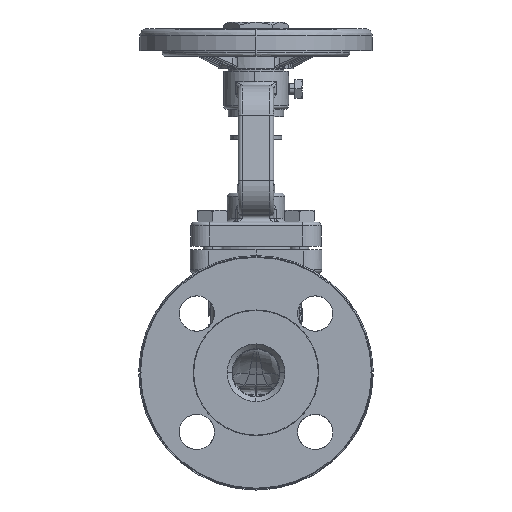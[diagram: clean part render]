
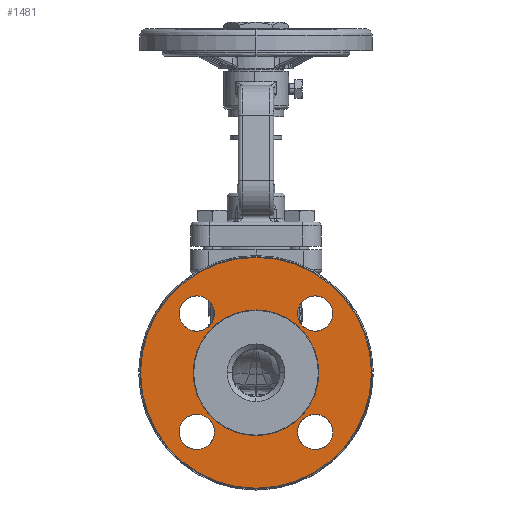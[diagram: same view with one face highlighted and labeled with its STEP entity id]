
A CAD part, left-side view. The second image highlights one B-rep face of the part: STEP entity #1481.
In plain terms, the highlighted planar face has unit normal (-1, 0, 0).
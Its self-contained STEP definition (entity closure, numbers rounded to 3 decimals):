
#1481=ADVANCED_FACE('',(#12244,#12245,#12246,#12247,#12248,#12249),#12243,.T.);
#12243=PLANE('',#31686);
#12244=FACE_OUTER_BOUND('',#31687,.T.);
#12245=FACE_BOUND('',#31688,.T.);
#12246=FACE_BOUND('',#31689,.T.);
#12247=FACE_BOUND('',#31690,.T.);
#12248=FACE_BOUND('',#31691,.T.);
#12249=FACE_BOUND('',#31692,.T.);
#31683=CARTESIAN_POINT('',(-64.,-72.034,-72.034));
#31684=DIRECTION('',(-1.,0.,0.));
#31685=DIRECTION('',(0.,0.,1.));
#31686=AXIS2_PLACEMENT_3D('',#31683,#31684,#31685);
#31687=EDGE_LOOP('',(#58149,#58150,#58151,#58152,#58153,#58154));
#31688=EDGE_LOOP('',(#58155,#58156));
#31689=EDGE_LOOP('',(#58157,#58158));
#31690=EDGE_LOOP('',(#58159,#58160));
#31691=EDGE_LOOP('',(#58161,#58162));
#31692=EDGE_LOOP('',(#58163,#58164));
#58149=ORIENTED_EDGE('',*,*,#64090,.T.);
#58150=ORIENTED_EDGE('',*,*,#64091,.T.);
#58151=ORIENTED_EDGE('',*,*,#64092,.F.);
#58152=ORIENTED_EDGE('',*,*,#63828,.T.);
#58153=ORIENTED_EDGE('',*,*,#63822,.T.);
#58154=ORIENTED_EDGE('',*,*,#64093,.F.);
#58155=ORIENTED_EDGE('',*,*,#64094,.T.);
#58156=ORIENTED_EDGE('',*,*,#64095,.T.);
#58157=ORIENTED_EDGE('',*,*,#64096,.T.);
#58158=ORIENTED_EDGE('',*,*,#64097,.T.);
#58159=ORIENTED_EDGE('',*,*,#64098,.F.);
#58160=ORIENTED_EDGE('',*,*,#64099,.F.);
#58161=ORIENTED_EDGE('',*,*,#64100,.T.);
#58162=ORIENTED_EDGE('',*,*,#64101,.T.);
#58163=ORIENTED_EDGE('',*,*,#64102,.T.);
#58164=ORIENTED_EDGE('',*,*,#64103,.T.);
#63822=EDGE_CURVE('',#80864,#80865,#80866,.T.);
#63828=EDGE_CURVE('',#80906,#80864,#80907,.T.);
#64090=EDGE_CURVE('',#82700,#82701,#82702,.T.);
#64091=EDGE_CURVE('',#82701,#82708,#82709,.T.);
#64092=EDGE_CURVE('',#80906,#82708,#82715,.T.);
#64093=EDGE_CURVE('',#82700,#80865,#82721,.T.);
#64094=EDGE_CURVE('',#82727,#82728,#82729,.T.);
#64095=EDGE_CURVE('',#82728,#82727,#82735,.T.);
#64096=EDGE_CURVE('',#82741,#82742,#82743,.T.);
#64097=EDGE_CURVE('',#82742,#82741,#82749,.T.);
#64098=EDGE_CURVE('',#82755,#82756,#82757,.T.);
#64099=EDGE_CURVE('',#82756,#82755,#82763,.T.);
#64100=EDGE_CURVE('',#82769,#82770,#82771,.T.);
#64101=EDGE_CURVE('',#82770,#82769,#82777,.T.);
#64102=EDGE_CURVE('',#82783,#82784,#82785,.T.);
#64103=EDGE_CURVE('',#82784,#82783,#82791,.T.);
#80864=VERTEX_POINT('',#104999);
#80865=VERTEX_POINT('',#105000);
#80866=LINE('',#105001,#105002);
#80906=VERTEX_POINT('',#105046);
#80907=LINE('',#105047,#105048);
#82700=VERTEX_POINT('',#106989);
#82701=VERTEX_POINT('',#106990);
#82702=LINE('',#106991,#106992);
#82708=VERTEX_POINT('',#106994);
#82709=LINE('',#106995,#106996);
#82715=CIRCLE('',#107001,62.034);
#82721=CIRCLE('',#107005,62.034);
#82727=VERTEX_POINT('',#107006);
#82728=VERTEX_POINT('',#107007);
#82729=CIRCLE('',#107011,9.5);
#82735=CIRCLE('',#107015,9.5);
#82741=VERTEX_POINT('',#107016);
#82742=VERTEX_POINT('',#107017);
#82743=CIRCLE('',#107021,9.5);
#82749=CIRCLE('',#107025,9.5);
#82755=VERTEX_POINT('',#107026);
#82756=VERTEX_POINT('',#107027);
#82757=CIRCLE('',#107031,33.768);
#82763=CIRCLE('',#107035,33.768);
#82769=VERTEX_POINT('',#107036);
#82770=VERTEX_POINT('',#107037);
#82771=CIRCLE('',#107041,9.5);
#82777=CIRCLE('',#107045,9.5);
#82783=VERTEX_POINT('',#107046);
#82784=VERTEX_POINT('',#107047);
#82785=CIRCLE('',#107051,9.5);
#82791=CIRCLE('',#107055,9.5);
#104999=CARTESIAN_POINT('',(-64.,0.,-61.5));
#105000=CARTESIAN_POINT('',(-64.,-0.308,-62.034));
#105001=CARTESIAN_POINT('',(-64.,0.,-61.5));
#105002=VECTOR('',#105003,0.616);
#105003=DIRECTION('',(0.,-0.5,-0.866));
#105046=CARTESIAN_POINT('',(-64.,0.308,-62.034));
#105047=CARTESIAN_POINT('',(-64.,0.308,-62.034));
#105048=VECTOR('',#105049,0.616);
#105049=DIRECTION('',(0.,-0.5,0.866));
#106989=CARTESIAN_POINT('',(-64.,-0.308,62.034));
#106990=CARTESIAN_POINT('',(-64.,0.,61.5));
#106991=CARTESIAN_POINT('',(-64.,-0.308,62.034));
#106992=VECTOR('',#106993,0.616);
#106993=DIRECTION('',(0.,0.5,-0.866));
#106994=CARTESIAN_POINT('',(-64.,0.308,62.034));
#106995=CARTESIAN_POINT('',(-64.,0.,61.5));
#106996=VECTOR('',#106997,0.616);
#106997=DIRECTION('',(0.,0.5,0.866));
#106998=CARTESIAN_POINT('',(-64.,0.,0.));
#106999=DIRECTION('',(1.,0.,0.));
#107000=DIRECTION('',(0.,0.,-1.));
#107001=AXIS2_PLACEMENT_3D('',#106998,#106999,#107000);
#107002=CARTESIAN_POINT('',(-64.,0.,0.));
#107003=DIRECTION('',(1.,0.,0.));
#107004=DIRECTION('',(0.,0.,-1.));
#107005=AXIS2_PLACEMENT_3D('',#107002,#107003,#107004);
#107006=CARTESIAN_POINT('',(-64.,-31.82,41.32));
#107007=CARTESIAN_POINT('',(-64.,-31.82,22.32));
#107008=CARTESIAN_POINT('',(-64.,-31.82,31.82));
#107009=DIRECTION('',(1.,0.,0.));
#107010=DIRECTION('',(0.,0.,1.));
#107011=AXIS2_PLACEMENT_3D('',#107008,#107009,#107010);
#107012=CARTESIAN_POINT('',(-64.,-31.82,31.82));
#107013=DIRECTION('',(1.,0.,0.));
#107014=DIRECTION('',(0.,0.,1.));
#107015=AXIS2_PLACEMENT_3D('',#107012,#107013,#107014);
#107016=CARTESIAN_POINT('',(-64.,31.82,-22.32));
#107017=CARTESIAN_POINT('',(-64.,31.82,-41.32));
#107018=CARTESIAN_POINT('',(-64.,31.82,-31.82));
#107019=DIRECTION('',(1.,0.,0.));
#107020=DIRECTION('',(0.,0.,1.));
#107021=AXIS2_PLACEMENT_3D('',#107018,#107019,#107020);
#107022=CARTESIAN_POINT('',(-64.,31.82,-31.82));
#107023=DIRECTION('',(1.,0.,0.));
#107024=DIRECTION('',(0.,0.,1.));
#107025=AXIS2_PLACEMENT_3D('',#107022,#107023,#107024);
#107026=CARTESIAN_POINT('',(-64.,0.,-33.768));
#107027=CARTESIAN_POINT('',(-64.,0.,33.768));
#107028=CARTESIAN_POINT('',(-64.,0.,0.));
#107029=DIRECTION('',(-1.,0.,0.));
#107030=DIRECTION('',(0.,0.,1.));
#107031=AXIS2_PLACEMENT_3D('',#107028,#107029,#107030);
#107032=CARTESIAN_POINT('',(-64.,0.,0.));
#107033=DIRECTION('',(-1.,0.,0.));
#107034=DIRECTION('',(0.,0.,1.));
#107035=AXIS2_PLACEMENT_3D('',#107032,#107033,#107034);
#107036=CARTESIAN_POINT('',(-64.,-31.82,-22.32));
#107037=CARTESIAN_POINT('',(-64.,-31.82,-41.32));
#107038=CARTESIAN_POINT('',(-64.,-31.82,-31.82));
#107039=DIRECTION('',(1.,0.,0.));
#107040=DIRECTION('',(0.,0.,1.));
#107041=AXIS2_PLACEMENT_3D('',#107038,#107039,#107040);
#107042=CARTESIAN_POINT('',(-64.,-31.82,-31.82));
#107043=DIRECTION('',(1.,0.,0.));
#107044=DIRECTION('',(0.,0.,1.));
#107045=AXIS2_PLACEMENT_3D('',#107042,#107043,#107044);
#107046=CARTESIAN_POINT('',(-64.,31.82,41.32));
#107047=CARTESIAN_POINT('',(-64.,31.82,22.32));
#107048=CARTESIAN_POINT('',(-64.,31.82,31.82));
#107049=DIRECTION('',(1.,0.,0.));
#107050=DIRECTION('',(0.,0.,1.));
#107051=AXIS2_PLACEMENT_3D('',#107048,#107049,#107050);
#107052=CARTESIAN_POINT('',(-64.,31.82,31.82));
#107053=DIRECTION('',(1.,0.,0.));
#107054=DIRECTION('',(0.,0.,1.));
#107055=AXIS2_PLACEMENT_3D('',#107052,#107053,#107054);
